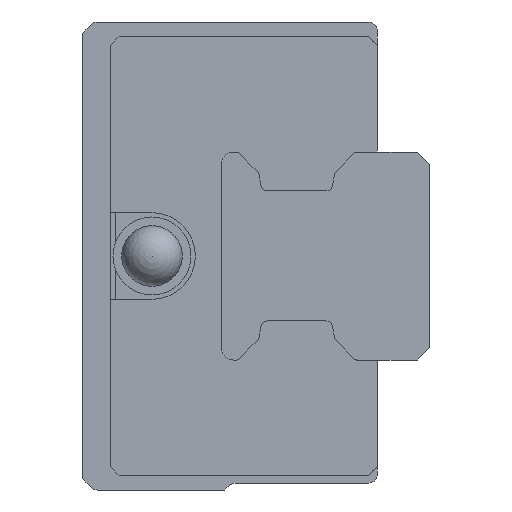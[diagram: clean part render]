
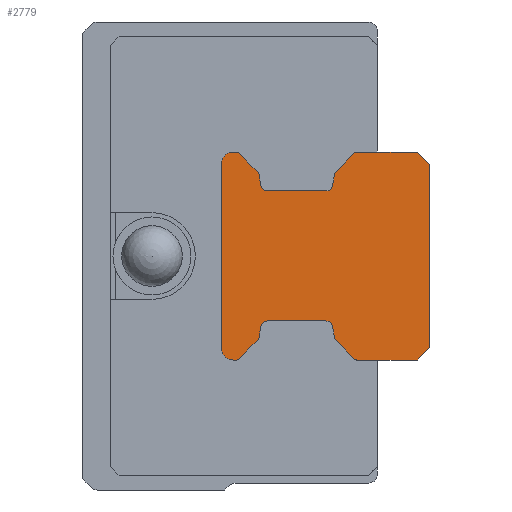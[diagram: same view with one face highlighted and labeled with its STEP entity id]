
A CAD part, left-side view. The second image highlights one B-rep face of the part: STEP entity #2779.
In plain terms, the highlighted planar face has unit normal (-1, 0, 0).
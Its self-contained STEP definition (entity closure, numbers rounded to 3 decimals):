
#49=CIRCLE('',#2944,0.15);
#51=CIRCLE('',#2948,0.15);
#53=CIRCLE('',#2952,0.4);
#55=CIRCLE('',#2956,0.4);
#57=CIRCLE('',#2960,0.15);
#59=CIRCLE('',#2964,0.15);
#66=CIRCLE('',#2977,0.15);
#68=CIRCLE('',#2981,0.15);
#70=CIRCLE('',#2985,0.4);
#72=CIRCLE('',#2989,0.4);
#74=CIRCLE('',#2993,0.15);
#76=CIRCLE('',#2997,0.15);
#78=CIRCLE('',#3001,0.7);
#85=CIRCLE('',#3010,0.7);
#385=ORIENTED_EDGE('',*,*,#1001,.F.);
#386=ORIENTED_EDGE('',*,*,#1105,.F.);
#387=ORIENTED_EDGE('',*,*,#1102,.F.);
#388=ORIENTED_EDGE('',*,*,#1094,.F.);
#389=ORIENTED_EDGE('',*,*,#1091,.F.);
#390=ORIENTED_EDGE('',*,*,#1088,.F.);
#391=ORIENTED_EDGE('',*,*,#1085,.F.);
#392=ORIENTED_EDGE('',*,*,#1082,.F.);
#393=ORIENTED_EDGE('',*,*,#1079,.F.);
#394=ORIENTED_EDGE('',*,*,#1076,.T.);
#395=ORIENTED_EDGE('',*,*,#1073,.F.);
#396=ORIENTED_EDGE('',*,*,#1070,.T.);
#397=ORIENTED_EDGE('',*,*,#1067,.F.);
#398=ORIENTED_EDGE('',*,*,#1064,.F.);
#399=ORIENTED_EDGE('',*,*,#1061,.F.);
#400=ORIENTED_EDGE('',*,*,#1058,.F.);
#401=ORIENTED_EDGE('',*,*,#1055,.F.);
#402=ORIENTED_EDGE('',*,*,#1052,.F.);
#403=ORIENTED_EDGE('',*,*,#1049,.F.);
#404=ORIENTED_EDGE('',*,*,#1041,.F.);
#405=ORIENTED_EDGE('',*,*,#1038,.F.);
#406=ORIENTED_EDGE('',*,*,#1035,.F.);
#407=ORIENTED_EDGE('',*,*,#1032,.F.);
#408=ORIENTED_EDGE('',*,*,#1029,.F.);
#409=ORIENTED_EDGE('',*,*,#1026,.F.);
#410=ORIENTED_EDGE('',*,*,#1023,.T.);
#411=ORIENTED_EDGE('',*,*,#1020,.F.);
#412=ORIENTED_EDGE('',*,*,#1017,.T.);
#413=ORIENTED_EDGE('',*,*,#1014,.F.);
#414=ORIENTED_EDGE('',*,*,#1011,.F.);
#415=ORIENTED_EDGE('',*,*,#1008,.F.);
#416=ORIENTED_EDGE('',*,*,#1005,.F.);
#1001=EDGE_CURVE('',#1394,#1395,#1674,.T.);
#1005=EDGE_CURVE('',#1395,#1398,#49,.T.);
#1008=EDGE_CURVE('',#1398,#1400,#1679,.T.);
#1011=EDGE_CURVE('',#1400,#1402,#51,.T.);
#1014=EDGE_CURVE('',#1402,#1404,#1683,.T.);
#1017=EDGE_CURVE('',#1406,#1404,#53,.T.);
#1020=EDGE_CURVE('',#1406,#1408,#1687,.T.);
#1023=EDGE_CURVE('',#1410,#1408,#55,.T.);
#1026=EDGE_CURVE('',#1410,#1412,#1691,.T.);
#1029=EDGE_CURVE('',#1412,#1414,#57,.T.);
#1032=EDGE_CURVE('',#1414,#1416,#1695,.T.);
#1035=EDGE_CURVE('',#1416,#1418,#59,.T.);
#1038=EDGE_CURVE('',#1418,#1420,#1699,.T.);
#1041=EDGE_CURVE('',#1420,#1422,#1702,.T.);
#1049=EDGE_CURVE('',#1422,#1429,#1705,.T.);
#1052=EDGE_CURVE('',#1429,#1431,#1708,.T.);
#1055=EDGE_CURVE('',#1431,#1433,#1711,.T.);
#1058=EDGE_CURVE('',#1433,#1435,#66,.T.);
#1061=EDGE_CURVE('',#1435,#1437,#1715,.T.);
#1064=EDGE_CURVE('',#1437,#1439,#68,.T.);
#1067=EDGE_CURVE('',#1439,#1441,#1719,.T.);
#1070=EDGE_CURVE('',#1443,#1441,#70,.T.);
#1073=EDGE_CURVE('',#1443,#1445,#1723,.T.);
#1076=EDGE_CURVE('',#1447,#1445,#72,.T.);
#1079=EDGE_CURVE('',#1447,#1449,#1727,.T.);
#1082=EDGE_CURVE('',#1449,#1451,#74,.T.);
#1085=EDGE_CURVE('',#1451,#1453,#1731,.T.);
#1088=EDGE_CURVE('',#1453,#1455,#76,.T.);
#1091=EDGE_CURVE('',#1455,#1457,#1735,.T.);
#1094=EDGE_CURVE('',#1457,#1459,#78,.T.);
#1102=EDGE_CURVE('',#1459,#1466,#1739,.T.);
#1105=EDGE_CURVE('',#1466,#1394,#85,.T.);
#1394=VERTEX_POINT('',#4050);
#1395=VERTEX_POINT('',#4051);
#1398=VERTEX_POINT('',#4059);
#1400=VERTEX_POINT('',#4065);
#1402=VERTEX_POINT('',#4071);
#1404=VERTEX_POINT('',#4077);
#1406=VERTEX_POINT('',#4083);
#1408=VERTEX_POINT('',#4089);
#1410=VERTEX_POINT('',#4095);
#1412=VERTEX_POINT('',#4101);
#1414=VERTEX_POINT('',#4107);
#1416=VERTEX_POINT('',#4113);
#1418=VERTEX_POINT('',#4119);
#1420=VERTEX_POINT('',#4125);
#1422=VERTEX_POINT('',#4131);
#1429=VERTEX_POINT('',#4147);
#1431=VERTEX_POINT('',#4153);
#1433=VERTEX_POINT('',#4159);
#1435=VERTEX_POINT('',#4165);
#1437=VERTEX_POINT('',#4171);
#1439=VERTEX_POINT('',#4177);
#1441=VERTEX_POINT('',#4183);
#1443=VERTEX_POINT('',#4189);
#1445=VERTEX_POINT('',#4195);
#1447=VERTEX_POINT('',#4201);
#1449=VERTEX_POINT('',#4207);
#1451=VERTEX_POINT('',#4213);
#1453=VERTEX_POINT('',#4219);
#1455=VERTEX_POINT('',#4225);
#1457=VERTEX_POINT('',#4231);
#1459=VERTEX_POINT('',#4237);
#1466=VERTEX_POINT('',#4253);
#1674=LINE('',#4049,#1955);
#1679=LINE('',#4064,#1960);
#1683=LINE('',#4076,#1964);
#1687=LINE('',#4088,#1968);
#1691=LINE('',#4100,#1972);
#1695=LINE('',#4112,#1976);
#1699=LINE('',#4124,#1980);
#1702=LINE('',#4130,#1983);
#1705=LINE('',#4146,#1986);
#1708=LINE('',#4152,#1989);
#1711=LINE('',#4158,#1992);
#1715=LINE('',#4170,#1996);
#1719=LINE('',#4182,#2000);
#1723=LINE('',#4194,#2004);
#1727=LINE('',#4206,#2008);
#1731=LINE('',#4218,#2012);
#1735=LINE('',#4230,#2016);
#1739=LINE('',#4252,#2020);
#1955=VECTOR('',#3220,1000.);
#1960=VECTOR('',#3233,1000.);
#1964=VECTOR('',#3245,1000.);
#1968=VECTOR('',#3257,1000.);
#1972=VECTOR('',#3269,1000.);
#1976=VECTOR('',#3281,1000.);
#1980=VECTOR('',#3293,1000.);
#1983=VECTOR('',#3298,1000.);
#1986=VECTOR('',#3313,1000.);
#1989=VECTOR('',#3318,1000.);
#1992=VECTOR('',#3323,1000.);
#1996=VECTOR('',#3335,1000.);
#2000=VECTOR('',#3347,1000.);
#2004=VECTOR('',#3359,1000.);
#2008=VECTOR('',#3371,1000.);
#2012=VECTOR('',#3383,1000.);
#2016=VECTOR('',#3395,1000.);
#2020=VECTOR('',#3417,1000.);
#2279=EDGE_LOOP('',(#385,#386,#387,#388,#389,#390,#391,#392,#393,#394,#395,
#396,#397,#398,#399,#400,#401,#402,#403,#404,#405,#406,#407,#408,#409,#410,
#411,#412,#413,#414,#415,#416));
#2484=FACE_BOUND('',#2279,.T.);
#2669=PLANE('',#3013);
#2779=ADVANCED_FACE('',(#2484),#2669,.F.);
#2944=AXIS2_PLACEMENT_3D('',#4058,#3226,#3227);
#2948=AXIS2_PLACEMENT_3D('',#4070,#3238,#3239);
#2952=AXIS2_PLACEMENT_3D('',#4082,#3250,#3251);
#2956=AXIS2_PLACEMENT_3D('',#4094,#3262,#3263);
#2960=AXIS2_PLACEMENT_3D('',#4106,#3274,#3275);
#2964=AXIS2_PLACEMENT_3D('',#4118,#3286,#3287);
#2977=AXIS2_PLACEMENT_3D('',#4164,#3328,#3329);
#2981=AXIS2_PLACEMENT_3D('',#4176,#3340,#3341);
#2985=AXIS2_PLACEMENT_3D('',#4188,#3352,#3353);
#2989=AXIS2_PLACEMENT_3D('',#4200,#3364,#3365);
#2993=AXIS2_PLACEMENT_3D('',#4212,#3376,#3377);
#2997=AXIS2_PLACEMENT_3D('',#4224,#3388,#3389);
#3001=AXIS2_PLACEMENT_3D('',#4236,#3400,#3401);
#3010=AXIS2_PLACEMENT_3D('',#4258,#3422,#3423);
#3013=AXIS2_PLACEMENT_3D('',#4261,#3428,#3429);
#3220=DIRECTION('',(0.,-1.,0.));
#3226=DIRECTION('',(1.,0.,0.));
#3227=DIRECTION('',(0.,0.,-1.));
#3233=DIRECTION('',(0.,-0.707,-0.707));
#3238=DIRECTION('',(1.,0.,0.));
#3239=DIRECTION('',(0.,0.,-1.));
#3245=DIRECTION('',(0.,-0.174,-0.985));
#3250=DIRECTION('',(1.,0.,0.));
#3251=DIRECTION('',(0.,0.,-1.));
#3257=DIRECTION('',(0.,-1.,0.));
#3262=DIRECTION('',(1.,0.,0.));
#3263=DIRECTION('',(0.,0.,-1.));
#3269=DIRECTION('',(0.,-0.174,0.985));
#3274=DIRECTION('',(1.,0.,0.));
#3275=DIRECTION('',(0.,0.,-1.));
#3281=DIRECTION('',(0.,-0.707,0.707));
#3286=DIRECTION('',(1.,0.,0.));
#3287=DIRECTION('',(0.,0.,-1.));
#3293=DIRECTION('',(0.,-1.,0.));
#3298=DIRECTION('',(0.,-0.707,-0.707));
#3313=DIRECTION('',(0.,0.,-1.));
#3318=DIRECTION('',(0.,0.707,-0.707));
#3323=DIRECTION('',(0.,1.,0.));
#3328=DIRECTION('',(1.,0.,0.));
#3329=DIRECTION('',(0.,0.,-1.));
#3335=DIRECTION('',(0.,0.707,0.707));
#3340=DIRECTION('',(1.,0.,0.));
#3341=DIRECTION('',(0.,0.,-1.));
#3347=DIRECTION('',(0.,0.174,0.985));
#3352=DIRECTION('',(1.,0.,0.));
#3353=DIRECTION('',(0.,0.,-1.));
#3359=DIRECTION('',(0.,1.,0.));
#3364=DIRECTION('',(1.,0.,0.));
#3365=DIRECTION('',(0.,0.,-1.));
#3371=DIRECTION('',(0.,0.174,-0.985));
#3376=DIRECTION('',(1.,0.,0.));
#3377=DIRECTION('',(0.,0.,-1.));
#3383=DIRECTION('',(0.,0.707,-0.707));
#3388=DIRECTION('',(1.,0.,0.));
#3389=DIRECTION('',(0.,0.,-1.));
#3395=DIRECTION('',(0.,1.,0.));
#3400=DIRECTION('',(1.,0.,0.));
#3401=DIRECTION('',(0.,0.,-1.));
#3417=DIRECTION('',(0.,0.,1.));
#3422=DIRECTION('',(1.,0.,0.));
#3423=DIRECTION('',(0.,0.,-1.));
#3428=DIRECTION('',(1.,0.,0.));
#3429=DIRECTION('',(0.,0.,-1.));
#4049=CARTESIAN_POINT('',(-10.,11.3,6.));
#4050=CARTESIAN_POINT('',(-10.,11.3,6.));
#4051=CARTESIAN_POINT('',(-10.,11.112,6.));
#4058=CARTESIAN_POINT('',(-10.,11.112,5.85));
#4059=CARTESIAN_POINT('',(-10.,11.006,5.956));
#4064=CARTESIAN_POINT('',(-10.,11.006,5.956));
#4065=CARTESIAN_POINT('',(-10.,9.878,4.828));
#4070=CARTESIAN_POINT('',(-10.,9.984,4.721));
#4071=CARTESIAN_POINT('',(-10.,9.836,4.748));
#4076=CARTESIAN_POINT('',(-10.,9.836,4.748));
#4077=CARTESIAN_POINT('',(-10.,9.718,4.081));
#4082=CARTESIAN_POINT('',(-10.,9.324,4.15));
#4083=CARTESIAN_POINT('',(-10.,9.324,3.75));
#4088=CARTESIAN_POINT('',(-10.,9.324,3.75));
#4089=CARTESIAN_POINT('',(-10.,5.976,3.75));
#4094=CARTESIAN_POINT('',(-10.,5.976,4.15));
#4095=CARTESIAN_POINT('',(-10.,5.582,4.081));
#4100=CARTESIAN_POINT('',(-10.,5.582,4.081));
#4101=CARTESIAN_POINT('',(-10.,5.464,4.748));
#4106=CARTESIAN_POINT('',(-10.,5.316,4.721));
#4107=CARTESIAN_POINT('',(-10.,5.422,4.828));
#4112=CARTESIAN_POINT('',(-10.,5.422,4.828));
#4113=CARTESIAN_POINT('',(-10.,4.294,5.956));
#4118=CARTESIAN_POINT('',(-10.,4.188,5.85));
#4119=CARTESIAN_POINT('',(-10.,4.188,6.));
#4124=CARTESIAN_POINT('',(-10.,4.188,6.));
#4125=CARTESIAN_POINT('',(-10.,0.7,6.));
#4130=CARTESIAN_POINT('',(-10.,0.7,6.));
#4131=CARTESIAN_POINT('',(-10.,0.,5.3));
#4146=CARTESIAN_POINT('',(-10.,0.,5.3));
#4147=CARTESIAN_POINT('',(-10.,0.,-5.3));
#4152=CARTESIAN_POINT('',(-10.,0.,-5.3));
#4153=CARTESIAN_POINT('',(-10.,0.7,-6.));
#4158=CARTESIAN_POINT('',(-10.,0.7,-6.));
#4159=CARTESIAN_POINT('',(-10.,4.188,-6.));
#4164=CARTESIAN_POINT('',(-10.,4.188,-5.85));
#4165=CARTESIAN_POINT('',(-10.,4.294,-5.956));
#4170=CARTESIAN_POINT('',(-10.,4.294,-5.956));
#4171=CARTESIAN_POINT('',(-10.,5.422,-4.828));
#4176=CARTESIAN_POINT('',(-10.,5.316,-4.721));
#4177=CARTESIAN_POINT('',(-10.,5.464,-4.748));
#4182=CARTESIAN_POINT('',(-10.,5.464,-4.748));
#4183=CARTESIAN_POINT('',(-10.,5.582,-4.081));
#4188=CARTESIAN_POINT('',(-10.,5.976,-4.15));
#4189=CARTESIAN_POINT('',(-10.,5.976,-3.75));
#4194=CARTESIAN_POINT('',(-10.,5.976,-3.75));
#4195=CARTESIAN_POINT('',(-10.,9.324,-3.75));
#4200=CARTESIAN_POINT('',(-10.,9.324,-4.15));
#4201=CARTESIAN_POINT('',(-10.,9.718,-4.081));
#4206=CARTESIAN_POINT('',(-10.,9.718,-4.081));
#4207=CARTESIAN_POINT('',(-10.,9.836,-4.748));
#4212=CARTESIAN_POINT('',(-10.,9.984,-4.721));
#4213=CARTESIAN_POINT('',(-10.,9.878,-4.828));
#4218=CARTESIAN_POINT('',(-10.,9.878,-4.828));
#4219=CARTESIAN_POINT('',(-10.,11.006,-5.956));
#4224=CARTESIAN_POINT('',(-10.,11.112,-5.85));
#4225=CARTESIAN_POINT('',(-10.,11.112,-6.));
#4230=CARTESIAN_POINT('',(-10.,11.112,-6.));
#4231=CARTESIAN_POINT('',(-10.,11.3,-6.));
#4236=CARTESIAN_POINT('',(-10.,11.3,-5.3));
#4237=CARTESIAN_POINT('',(-10.,12.,-5.3));
#4252=CARTESIAN_POINT('',(-10.,12.,-5.3));
#4253=CARTESIAN_POINT('',(-10.,12.,5.3));
#4258=CARTESIAN_POINT('',(-10.,11.3,5.3));
#4261=CARTESIAN_POINT('',(-10.,11.112,5.85));
